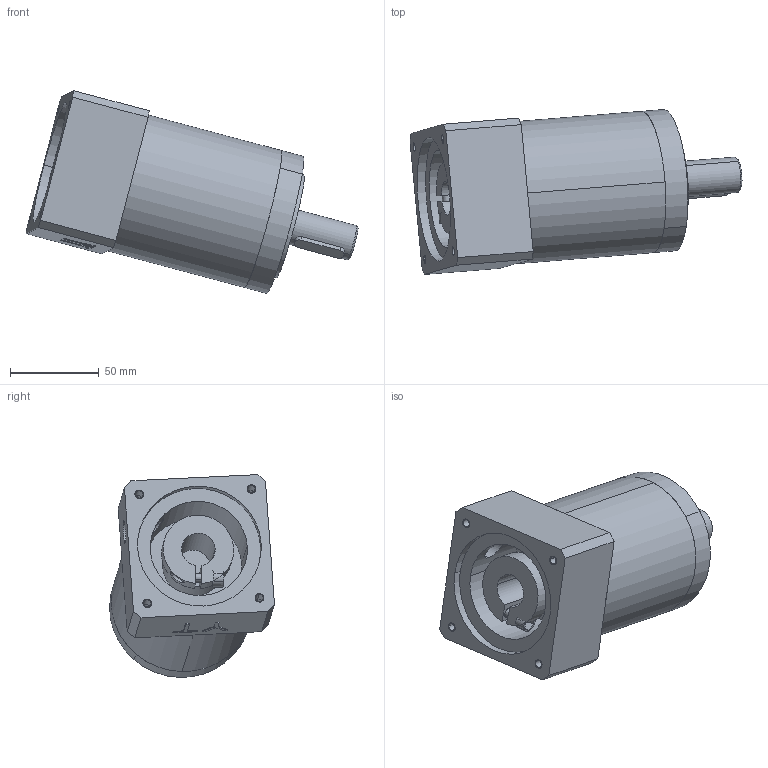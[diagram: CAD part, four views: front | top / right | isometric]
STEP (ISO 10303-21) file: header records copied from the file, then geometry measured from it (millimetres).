
FILE_DESCRIPTION((''),'2;1');
FILE_NAME('PL80L3_ASM','2014-12-27T',('Administrator'),(''),'PRO/ENGINEER BY PARAMETRIC TECHNOLOGY CORPORATION, 2013430','PRO/ENGINEER BY PARAMETRIC TECHNOLOGY CORPORATION, 2013430','');
FILE_SCHEMA(('CONFIG_CONTROL_DESIGN'));
Length unit declared in the file: millimetre
Products named in the file (6): ZHUPL80; XIANTIL3; LIANZHU; FLAND; LUOSI; PL80L3_ASM
Assembly tree (5 placements, depth 2):
  PL80L3_ASM
    ZHUPL80
    XIANTIL3
    LIANZHU
    FLAND
    LUOSI
Bounding box: 187.3 x 93.03 x 114.39 mm (x, y, z)
Volume: 682808.1 mm3; surface area: 89683.1 mm2
Topology: 5 solids, 14 shells, 142 faces, 354 edges, 233 vertices
Faces by surface type: plane 65, cylinder 65, cone 12
Entity records: 4507 total; most frequent: CARTESIAN_POINT 853, DIRECTION 798, ORIENTED_EDGE 652, EDGE_CURVE 344, AXIS2_PLACEMENT_3D 305, VERTEX_POINT 233, VECTOR 188, LINE 188
